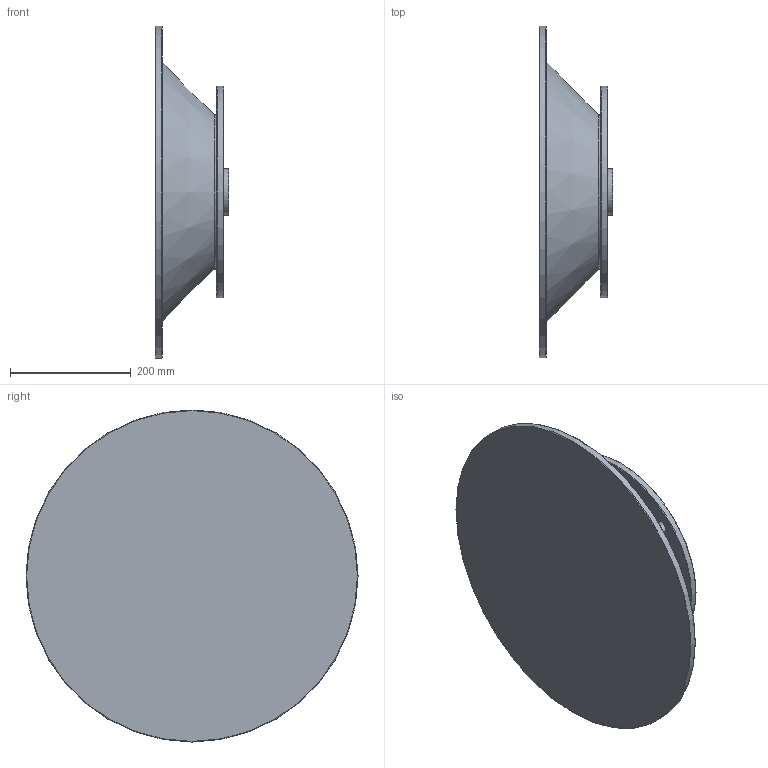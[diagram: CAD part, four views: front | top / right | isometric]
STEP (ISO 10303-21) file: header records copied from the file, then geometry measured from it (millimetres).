
FILE_DESCRIPTION((''),'2;1');
FILE_NAME('D:\PAWEŁ\ZLECENIA\2011 DualSystem\Przekładnie DR\DR160\STEP\180_B5_L113,5.stp','2012-06-11T13:05:56',('admin'),(''),'Autodesk Inventor 2009','Autodesk Inventor 2009','');
FILE_SCHEMA(('AUTOMOTIVE_DESIGN { 1 0 10303 214 1 1 1 1 }'));
Length unit declared in the file: millimetre
Products named in the file (1): 180_B5_L113,5
Bounding box: 122 x 550 x 550 mm (x, y, z)
Volume: 4581524.2 mm3; surface area: 910415.8 mm2
Topology: 1 solids, 1 shells, 30 faces, 58 edges, 36 vertices
Faces by surface type: plane 11, cylinder 6, bspline 6, torus 5, cone 2
Full cylindrical faces by diameter (mm): 78 x1, 232.982 x1, 250 x1, 350 x1, 550 x1
Entity records: 895 total; most frequent: CARTESIAN_POINT 281, DIRECTION 120, ORIENTED_EDGE 80, EDGE_LOOP 62, AXIS2_PLACEMENT_3D 55, EDGE_CURVE 40, VERTEX_POINT 36, FACE_BOUND 32
